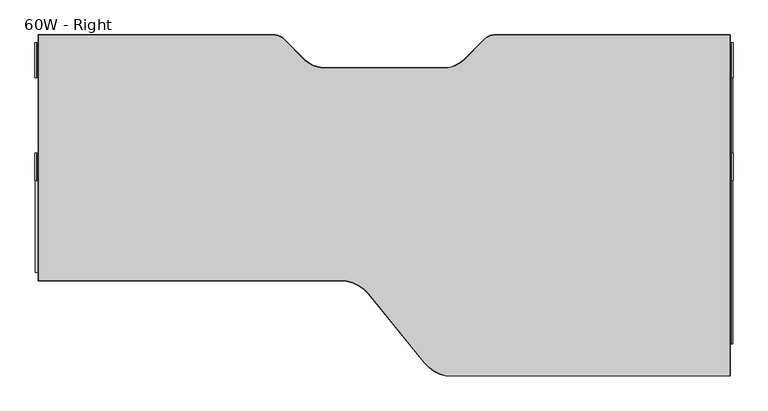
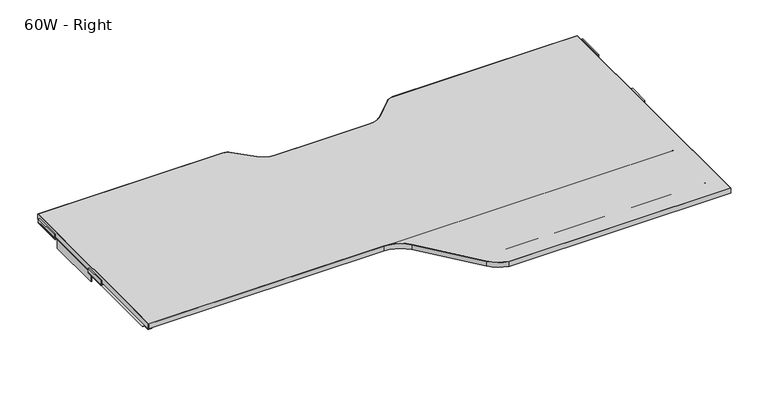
"""IFC4 building model written with IfcOpenShell, lengths in millimetres: furniture geometry, Steelcase Turnstone - Bivi - Table - Dual Top - Lower : 60W - Right."""

from ifc_helpers import new_model, si_unit, point, frame, frame_2d, origin, place, context, project, spatial, polyline, circle_curve, ellipse_curve, trimmed, segment, composite_curve, outline, extrude, source, transform, mapped, element, save
from ifc_brep_helpers import plane_surface, cylinder_surface, revolved_surface, advanced_brep


def furniture_60w_right_423f7bdd(model_context):
    return source(origin(), model_context, "Body", "SolidModel", [
        advanced_brep(
        [(1017.4901364, 89.1376402, 724.5249134), (1622.054541, 89.1373857, 724.5249134), (1622.054541, 814.2061738, 724.5249134), (1118.5570931, 814.2061738, 724.5249134), (1099.5811176, 805.3382607, 724.5249134), (1056.0202275, 761.6868553, 724.5249134), (1017.2770699, 744.2993467, 724.5249134), (886.2032875, 744.2993467, 724.5249134), (755.129423, 744.2993467, 724.5249134), (716.3864317, 761.6868032, 724.5249134), (672.5249468, 805.5482561, 724.5249134), (653.8424613, 814.1239839, 724.5249134), (150.7558466, 814.2061738, 724.5249134), (150.7558466, 292.2477989, 724.5249134), (792.4632404, 292.2477989, 724.5249134), (852.7982248, 263.786479, 724.5249134), (971.5732244, 117.1117408, 724.5249134), (1017.4901364, 89.1376402, 710.5549328), (971.5732244, 117.1117408, 710.5549328), (852.7982248, 263.786479, 710.5549328), (792.4632404, 292.2477989, 710.5549328), (150.7558466, 292.2477989, 710.5549328), (150.7558466, 814.2061738, 710.5549328), (653.8424613, 814.2061738, 710.5549328), (672.5249468, 805.5482561, 710.5549328), (716.3864317, 761.6868032, 710.5549328), (755.129423, 744.2993467, 710.5549328), (886.2032875, 744.2993467, 710.5549328), (1017.2770699, 744.2993467, 710.5549328), (1056.0202275, 761.6868553, 710.5549328), (1099.5811176, 805.3382607, 710.5549328), (1118.5570931, 814.2061738, 710.5549328), (1622.054541, 814.2061738, 710.5549328), (1622.054541, 89.1373857, 710.5549328)],
        [
            (0, 1),
            (1, 2),
            (2, 3),
            (3, 4, circle_curve(frame((1121.2592477, 783.6871801, 724.5249134), z_axis=(0.0, 0.0, 1.0), x_axis=(-0.4063186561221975, 0.913731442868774, 0.0)), 30.6383847)),
            (4, 5),
            (5, 6, circle_curve(frame((1013.7981972, 803.9088855, 724.5249134), z_axis=(0.0, 0.0, -1.0), x_axis=(-0.4063186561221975, 0.913731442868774, 0.0)), 59.7109678)),
            (6, 7),
            (7, 8),
            (8, 9, circle_curve(frame((758.6083688, 803.9087712, 724.5249134), z_axis=(0.0, 0.0, -1.0), x_axis=(-0.4063186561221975, 0.913731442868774, 0.0)), 59.7108579)),
            (9, 10),
            (10, 11, circle_curve(frame((651.8494671, 785.1441379, 724.5249134), z_axis=(0.0, 0.0, 1.0), x_axis=(-0.4063186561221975, 0.913731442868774, 0.0)), 29.048296)),
            (11, 12),
            (12, 13),
            (13, 14),
            (14, 15, circle_curve(frame((793.1218611, 215.4614562, 724.5249134), z_axis=(0.0, 0.0, -1.0), x_axis=(-0.4063186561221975, 0.913731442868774, 0.0)), 76.7891673)),
            (15, 16),
            (16, 0, circle_curve(frame((1033.7062378, 167.4261218, 724.5249134), z_axis=(0.0, 0.0, 1.0), x_axis=(-0.4063186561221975, 0.913731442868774, 0.0)), 79.9502863)),
            (17, 18, circle_curve(frame((1033.7062378, 167.4261218, 710.5549328), z_axis=(0.0, 0.0, -1.0), x_axis=(-0.4063186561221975, 0.913731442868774, 0.0)), 79.9502863)),
            (18, 19),
            (19, 20, circle_curve(frame((793.1218611, 215.4614562, 710.5549328), z_axis=(0.0, 0.0, 1.0), x_axis=(-0.4063186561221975, 0.913731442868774, 0.0)), 76.7891673)),
            (20, 21),
            (21, 22),
            (22, 23),
            (23, 24, circle_curve(frame((651.8494671, 785.1441379, 710.5549328), z_axis=(0.0, 0.0, -1.0), x_axis=(-0.4063186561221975, 0.913731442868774, 0.0)), 29.048296)),
            (24, 25),
            (25, 26, circle_curve(frame((758.6083688, 803.9087712, 710.5549328), z_axis=(0.0, 0.0, 1.0), x_axis=(-0.4063186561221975, 0.913731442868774, 0.0)), 59.7108579)),
            (26, 27),
            (27, 28),
            (28, 29, circle_curve(frame((1013.7981972, 803.9088855, 710.5549328), z_axis=(0.0, 0.0, 1.0), x_axis=(-0.4063186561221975, 0.913731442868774, 0.0)), 59.7109678)),
            (29, 30),
            (30, 31, circle_curve(frame((1121.2592477, 783.6871801, 710.5549328), z_axis=(0.0, 0.0, -1.0), x_axis=(-0.4063186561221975, 0.913731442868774, 0.0)), 30.6383847)),
            (31, 32),
            (32, 33),
            (33, 17),
            (0, 17),
            (33, 1),
            (32, 2),
            (31, 3),
            (30, 4),
            (29, 5),
            (28, 6),
            (27, 7),
            (26, 8),
            (25, 9),
            (24, 10),
            (23, 11),
            (22, 12),
            (21, 13),
            (20, 14),
            (19, 15),
            (18, 16),
        ],
        [
            plane_surface(frame((1622.054541, 89.1373857, 724.5249134), z_axis=(0.0, 0.0, 1.0), x_axis=(0.9999999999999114, -4.210482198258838e-07, 0.0))),
            plane_surface(frame((1622.054541, 89.1373857, 710.5549328), z_axis=(0.0, 0.0, -1.0), x_axis=(-0.9999999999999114, 4.210482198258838e-07, 0.0))),
            plane_surface(frame((1017.4901364, 89.1376402, 724.5249134), z_axis=(-4.210482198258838e-07, -0.9999999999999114, 0.0), x_axis=(0.0, 0.0, -1.0))),
            plane_surface(frame((1622.054541, 89.1373857, 724.5249134), z_axis=(1.0, 0.0, 0.0), x_axis=(0.0, 0.0, -1.0))),
            plane_surface(frame((1622.054541, 814.2061738, 724.5249134), z_axis=(0.0, 1.0, 0.0), x_axis=(0.0, 0.0, -1.0))),
            cylinder_surface(frame((1121.2592477, 783.6871801, 710.5549328), z_axis=(0.0, 0.0, 1.0), x_axis=(-0.4063186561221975, 0.913731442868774, 0.0)), 30.6383847),
            plane_surface(frame((1099.5811176, 805.3382607, 724.5249134), z_axis=(-0.7078402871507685, 0.7063725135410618, 0.0), x_axis=(0.0, 0.0, -1.0))),
            revolved_surface(polyline([(989.5365170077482, 858.4686742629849, 710.5549328), (989.5365170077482, 858.4686742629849, 724.5249134)]), (1013.7981972, 803.9088855, 710.5549328), (0.0, 0.0, -1.0)),
            plane_surface(frame((1017.2770699, 744.2993467, 724.5249134), z_axis=(0.0, 1.0, 0.0), x_axis=(0.0, 0.0, -1.0))),
            plane_surface(frame((886.2032875, 744.2993467, 724.5249134), z_axis=(0.0, 1.0, 0.0), x_axis=(0.0, 0.0, -1.0))),
            revolved_surface(polyline([(734.3467332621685, 858.4684595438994, 710.5549328), (734.3467332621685, 858.4684595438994, 724.5249134)]), (758.6083688, 803.9087712, 710.5549328), (0.0, 0.0, -1.0)),
            plane_surface(frame((716.3864317, 761.6868032, 724.5249134), z_axis=(0.7071065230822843, 0.7071070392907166, 0.0), x_axis=(0.0, 0.0, -1.0))),
            cylinder_surface(frame((651.8494671, 785.1441379, 710.5549328), z_axis=(0.0, 0.0, 1.0), x_axis=(-0.4063186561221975, 0.913731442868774, 0.0)), 29.048296),
            plane_surface(frame((653.8424613, 814.2061738, 724.5249134), z_axis=(0.0, 1.0, 0.0), x_axis=(0.0, 0.0, -1.0))),
            plane_surface(frame((150.7558466, 814.2061738, 724.5249134), z_axis=(-1.0, 0.0, 0.0), x_axis=(0.0, 0.0, -1.0))),
            plane_surface(frame((150.7558466, 292.2477989, 724.5249134), z_axis=(0.0, -1.0, 0.0), x_axis=(0.0, 0.0, -1.0))),
            revolved_surface(polyline([(761.9209898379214, 285.62613283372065, 710.5549328), (761.9209898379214, 285.62613283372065, 724.5249134)]), (793.1218611, 215.4614562, 710.5549328), (0.0, 0.0, -1.0)),
            plane_surface(frame((852.7982248, 263.786479, 724.5249134), z_axis=(-0.7771456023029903, -0.6293208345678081, 0.0), x_axis=(0.0, 0.0, -1.0))),
            cylinder_surface(frame((1033.7062378, 167.4261218, 710.5549328), z_axis=(0.0, 0.0, 1.0), x_axis=(-0.4063186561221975, 0.913731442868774, 0.0)), 79.9502863),
        ],
        [
            (0, [[1, 2, 3, 4, 5, 6, 7, 8, 9, 10, 11, 12, 13, 14, 15, 16, 17]]),
            (1, [[18, 19, 20, 21, 22, 23, 24, 25, 26, 27, 28, 29, 30, 31, 32, 33, 34]]),
            (2, [[-1, 35, -34, 36]]),
            (3, [[-2, -36, -33, 37]]),
            (4, [[-3, -37, -32, 38]]),
            (5, [[-4, -38, -31, 39]]),
            (6, [[-5, -39, -30, 40]]),
            (7, [[-6, -40, -29, 41]]),
            (8, [[-7, -41, -28, 42]]),
            (9, [[-8, -42, -27, 43]]),
            (10, [[-9, -43, -26, 44]]),
            (11, [[-10, -44, -25, 45]]),
            (12, [[-11, -45, -24, 46]]),
            (13, [[-12, -46, -23, 47]]),
            (14, [[-13, -47, -22, 48]]),
            (15, [[-14, -48, -21, 49]]),
            (16, [[-15, -49, -20, 50]]),
            (17, [[-16, -50, -19, 51]]),
            (18, [[-17, -51, -18, -35]]),
        ],
    ),
        extrude(outline(composite_curve([segment(polyline([(149.8432404, 815.2221738), (653.8424613, 815.2221738)]), True, "CONTINUOUS"), segment(trimmed(circle_curve(frame_2d((651.8021969, 785.1871914)), 30.1041999), [point((653.8424613, 815.2221738))], [point((673.1030177, 806.4601292))], False, "CARTESIAN"), True, "CONTINUOUS"), segment(polyline([(673.1030177, 806.4601292), (717.0883671, 762.3879785)]), True, "CONTINUOUS"), segment(trimmed(circle_curve(frame_2d((758.5921228, 803.8917343)), 58.6951743), [point((717.0883671, 762.3879785))], [point((754.8597903, 745.3153467))], True, "CARTESIAN"), True, "CONTINUOUS"), segment(polyline([(754.8597903, 745.3153467), (886.2032875, 745.3153467), (1017.2473205, 745.3153467)]), True, "CONTINUOUS"), segment(trimmed(circle_curve(frame_2d((1013.7981972, 803.9088855)), 58.6949678), [point((1017.2473205, 745.3153467))], [point((1055.301807, 762.4052758))], True, "CARTESIAN"), True, "CONTINUOUS"), segment(polyline([(1055.301807, 762.4052758), (1098.8724869, 806.0444494)]), True, "CONTINUOUS"), segment(trimmed(circle_curve(frame_2d((1121.2631908, 783.6783822)), 31.6478212), [point((1098.8724869, 806.0444494))], [point((1118.6992501, 815.2221738))], False, "CARTESIAN"), True, "CONTINUOUS"), segment(polyline([(1118.6992501, 815.2221738), (1623.0432404, 815.2221738), (1623.0432404, 88.1471738), (1017.4913654, 88.1471738)]), True, "CONTINUOUS"), segment(trimmed(circle_curve(frame_2d((1033.4468929, 167.0577426)), 80.5074948), [point((1017.4913654, 88.1471738))], [point((970.8808515, 116.3926937))], False, "CARTESIAN"), True, "CONTINUOUS"), segment(polyline([(970.8808515, 116.3926937), (852.0785981, 263.1010628)]), True, "CONTINUOUS"), segment(trimmed(circle_curve(frame_2d((792.4555619, 214.0707453)), 77.1937723), [point((852.0785981, 263.1010628))], [point((792.4555619, 291.2645176))], True, "CARTESIAN"), True, "CONTINUOUS"), segment(polyline([(792.4555619, 291.2645176), (149.8432404, 291.2645176), (149.8432404, 815.2221738)]), True, "CONTINUOUS")], self_intersect=False), holes=[composite_curve([segment(polyline([(1622.054541, 814.2061738), (1118.5570931, 814.2061738)]), True, "CONTINUOUS"), segment(trimmed(circle_curve(frame_2d((1121.2592477, 783.6871801)), 30.6383847), [point((1118.5570931, 814.2061738))], [point((1099.5811176, 805.3382607))], True, "CARTESIAN"), True, "CONTINUOUS"), segment(polyline([(1099.5811176, 805.3382607), (1056.0202275, 761.6868553)]), True, "CONTINUOUS"), segment(trimmed(circle_curve(frame_2d((1013.7981972, 803.9088855)), 59.7109678), [point((1056.0202275, 761.6868553))], [point((1017.2770699, 744.2993467))], False, "CARTESIAN"), True, "CONTINUOUS"), segment(polyline([(1017.2770699, 744.2993467), (886.2032875, 744.2993467), (755.129423, 744.2993467)]), True, "CONTINUOUS"), segment(trimmed(circle_curve(frame_2d((758.6083688, 803.9087712)), 59.7108579), [point((755.129423, 744.2993467))], [point((716.3865606, 761.6866743))], False, "CARTESIAN"), True, "CONTINUOUS"), segment(polyline([(716.3865606, 761.6866743), (672.5545422, 805.605253)]), True, "CONTINUOUS"), segment(trimmed(circle_curve(frame_2d((651.8367587, 785.1872141)), 29.0881912), [point((672.5545422, 805.605253))], [point((653.8424613, 814.2061738))], True, "CARTESIAN"), True, "CONTINUOUS"), segment(polyline([(653.8424613, 814.2061738), (150.7558466, 814.2061738), (150.7558466, 292.2477989), (792.4632404, 292.2477989)]), True, "CONTINUOUS"), segment(trimmed(circle_curve(frame_2d((793.1218611, 215.4614562)), 76.7891673), [point((792.4632404, 292.2477989))], [point((852.7982248, 263.786479))], False, "CARTESIAN"), True, "CONTINUOUS"), segment(polyline([(852.7982248, 263.786479), (971.5732244, 117.1117408)]), True, "CONTINUOUS"), segment(trimmed(circle_curve(frame_2d((1033.7062378, 167.4261218)), 79.9502863), [point((971.5732244, 117.1117408))], [point((1017.4901364, 89.1376402))], True, "CARTESIAN"), True, "CONTINUOUS"), segment(polyline([(1017.4901364, 89.1376402), (1622.054541, 89.1373857), (1622.054541, 814.2061738)]), True, "CONTINUOUS")], self_intersect=False)]), frame((0.0, 0.0, 710.5550297), z_axis=(0.0, 0.0, 1.0), x_axis=(1.0, 0.0, 0.0)), (0.0, 0.0, 1.0), 13.9698837),
        advanced_brep(
        [(145.5818241, 504.690356, 711.9212369), (145.5818241, 563.7453741, 711.9212369), (145.5818241, 563.7451183, 723.0029133), (145.5818241, 504.690356, 723.0029133), (145.5818241, 724.4001739, 711.9212369), (145.5818241, 798.4679915, 711.9212369), (145.5818241, 798.4679915, 723.0029133), (145.5818241, 724.4001739, 723.0029133), (142.5439281, 563.7451183, 723.0029133), (142.5439281, 504.690356, 723.0029133), (142.5439281, 798.4679915, 723.0029133), (142.5439281, 724.4001739, 723.0029133), (142.5439281, 563.7453741, 711.9212369), (142.5439281, 504.690356, 711.9212369), (142.5439281, 798.4679915, 711.9212369), (142.5439281, 724.4001739, 711.9212369), (147.4373911, 563.7454806, 707.3122286), (147.4373911, 309.2290349, 707.3122286), (143.7646064, 309.2290349, 708.9675297), (143.7646064, 504.690356, 708.9675297), (145.2762535, 798.4679915, 707.8143047), (147.4373911, 798.3703978, 707.3122286), (147.4373911, 724.4001739, 707.3122286), (168.8139092, 563.7454805, 707.3122286), (168.8139092, 309.2290349, 707.3122286), (168.8139092, 798.3703978, 707.3122286), (168.8139092, 724.4001739, 707.3122286), (170.6778738, 563.745518, 705.6867706), (170.6778738, 724.4001739, 705.6867706), (170.6953721, 798.0046785, 705.4307657), (170.6953721, 309.2290349, 705.4307657), (170.6953721, 792.7742761, 678.5226778), (170.6953721, 329.5446913, 678.5226778), (170.6953721, 309.2290349, 696.2929994), (175.2571761, 791.9465678, 674.264488), (175.2571761, 334.4128036, 674.264488), (183.3953277, 791.9465678, 674.264488), (183.3953277, 334.4128036, 674.264488), (183.3953277, 792.5536406, 677.3876068), (183.3953277, 330.8423444, 677.3876068), (174.3746318, 792.5536406, 677.3876068), (174.3746318, 330.8423444, 677.3876068), (174.3746318, 797.8637582, 704.7057937), (174.3746318, 309.2290349, 704.7057937), (174.3746318, 309.2290349, 696.2929994), (173.4415105, 798.4679915, 707.8143047), (168.7303737, 798.4679915, 710.3500519), (168.7303737, 724.4001739, 710.3500519), (174.2887309, 724.4001739, 705.6867706), (174.2887309, 563.745518, 705.6867706), (168.7303737, 563.7454105, 710.3500519), (168.7303737, 504.690356, 710.3500519), (172.431084, 504.690356, 708.9675297), (172.431084, 309.2290349, 708.9675297), (147.4373911, 798.4679915, 710.3500519), (147.4373911, 724.4001739, 710.3500519), (147.4373911, 563.7454104, 710.3500519), (147.4373911, 504.690356, 710.3500519)],
        [
            (0, 1),
            (1, 2),
            (2, 3),
            (3, 0),
            (4, 5),
            (5, 6),
            (6, 7),
            (7, 4),
            (2, 8),
            (8, 9),
            (9, 3),
            (6, 10),
            (10, 11),
            (11, 7),
            (8, 12),
            (12, 13),
            (13, 9),
            (10, 14),
            (14, 15),
            (15, 11),
            (12, 16, ellipse_curve(frame((147.4373911, 563.7453673, 712.2144694), z_axis=(0.0, -0.999999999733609, -2.3082072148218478e-05), x_axis=(0.0, -2.308207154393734e-05, 0.999999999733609)), 4.9022408, 4.9022408)),
            (16, 17),
            (17, 18, circle_curve(frame((147.4373911, 309.2290349, 712.2144694), z_axis=(0.0, 1.0, 0.0), x_axis=(0.0, 0.0, 1.0)), 4.9022408)),
            (18, 19),
            (19, 13, circle_curve(frame((147.4373911, 504.690356, 712.2144694), z_axis=(0.0, 1.0, 0.0), x_axis=(0.0, 0.0, 1.0)), 4.9022408)),
            (14, 20, circle_curve(frame((147.4373911, 798.4679915, 712.2144694), z_axis=(0.0, -1.0, 0.0), x_axis=(0.0, 0.0, 1.0)), 4.9022408)),
            (20, 21, ellipse_curve(frame((147.4373911, 799.3232969, 712.2144694), z_axis=(0.0, -0.9816271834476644, 0.1908089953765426), x_axis=(0.0, -0.1908089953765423, -0.9816271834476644)), 4.9939945, 4.9022408)),
            (21, 22),
            (22, 15, circle_curve(frame((147.4373911, 724.4001739, 712.2144694), z_axis=(0.0, 1.0, 0.0), x_axis=(0.0, 0.0, 1.0)), 4.9022408)),
            (16, 23),
            (23, 24),
            (24, 17),
            (21, 25),
            (25, 26),
            (26, 22),
            (23, 27, ellipse_curve(frame((168.8139092, 563.7455239, 705.4307657), z_axis=(0.0, 0.999999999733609, 2.3082072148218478e-05), x_axis=(0.0, 2.308207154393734e-05, -0.999999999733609)), 1.8814629, 1.8814629)),
            (27, 28),
            (28, 26, circle_curve(frame((168.8139092, 724.4001739, 705.4307657), z_axis=(0.0, -1.0, 0.0), x_axis=(0.0, 0.0, 1.0)), 1.8814629)),
            (25, 29, ellipse_curve(frame((168.8139092, 798.0046785, 705.4307657), z_axis=(0.0, 0.9816271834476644, -0.1908089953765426), x_axis=(0.0, 0.1908089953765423, 0.9816271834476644)), 1.9166776, 1.8814629)),
            (29, 30),
            (30, 24, circle_curve(frame((168.8139092, 309.2290349, 705.4307657), z_axis=(0.0, -1.0, 0.0), x_axis=(0.0, 0.0, 1.0)), 1.8814629)),
            (29, 31),
            (31, 32),
            (32, 33),
            (33, 30),
            (31, 34, ellipse_curve(frame((175.2571761, 792.8353967, 678.8371161), z_axis=(0.0, -0.9816271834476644, 0.1908089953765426), x_axis=(0.0, -0.1908089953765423, -0.9816271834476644)), 4.6582125, 4.572628)),
            (34, 35),
            (35, 32, ellipse_curve(frame((175.2571761, 329.1852144, 678.8371161), z_axis=(0.0, 0.6583812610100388, 0.7526846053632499), x_axis=(0.0, -0.7526846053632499, 0.6583812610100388)), 6.9452585, 4.572628)),
            (34, 36),
            (36, 37),
            (37, 35),
            (36, 38),
            (38, 39),
            (39, 37),
            (38, 40),
            (40, 41),
            (41, 39),
            (40, 42),
            (42, 43),
            (43, 44),
            (44, 41),
            (42, 45, ellipse_curve(frame((168.7303737, 797.8637582, 704.7057937), z_axis=(0.0, -0.9816271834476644, 0.1908089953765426), x_axis=(0.0, -0.1908089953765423, -0.9816271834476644)), 5.7499, 5.6442581)),
            (45, 46, circle_curve(frame((168.7303737, 798.4679915, 704.7057937), z_axis=(0.0, -1.0, 0.0), x_axis=(0.0, 0.0, 1.0)), 5.6442581)),
            (46, 47),
            (47, 48, circle_curve(frame((168.7303737, 724.4001739, 704.7057937), z_axis=(0.0, 1.0, 0.0), x_axis=(0.0, 0.0, 1.0)), 5.6442581)),
            (48, 49),
            (49, 50, ellipse_curve(frame((168.7303737, 563.7455407, 704.7057937), z_axis=(0.0, -0.999999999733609, -2.3082072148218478e-05), x_axis=(0.0, -2.308207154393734e-05, 0.999999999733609)), 5.6442581, 5.6442581)),
            (50, 51),
            (51, 52, circle_curve(frame((168.7303737, 504.690356, 704.7057937), z_axis=(0.0, 1.0, 0.0), x_axis=(0.0, 0.0, 1.0)), 5.6442581)),
            (52, 53),
            (53, 43, circle_curve(frame((168.7303737, 309.2290349, 704.7057937), z_axis=(0.0, 1.0, 0.0), x_axis=(0.0, 0.0, 1.0)), 5.6442581)),
            (46, 54),
            (54, 55),
            (55, 47),
            (50, 56),
            (56, 57),
            (57, 51),
            (0, 57, circle_curve(frame((147.1748011, 504.690356, 711.9212369), z_axis=(0.0, -1.0, 0.0), x_axis=(0.0, 0.0, 1.0)), 1.592977)),
            (56, 1, ellipse_curve(frame((147.1748011, 563.7453741, 711.9212369), z_axis=(0.0, 0.999999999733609, 2.3082072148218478e-05), x_axis=(0.0, 2.308207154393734e-05, -0.999999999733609)), 1.592977, 1.592977)),
            (4, 55, circle_curve(frame((147.1748011, 724.4001739, 711.9212369), z_axis=(0.0, -1.0, 0.0), x_axis=(0.0, 0.0, 1.0)), 1.592977)),
            (54, 5, circle_curve(frame((147.1748011, 798.4679915, 711.9212369), z_axis=(0.0, 1.0, 0.0), x_axis=(0.0, 0.0, 1.0)), 1.592977)),
            (19, 52),
            (18, 53),
            (33, 44),
            (45, 20),
            (49, 27),
            (28, 48),
        ],
        [
            plane_surface(frame((145.5818241, 288.2588059, 711.9212369), z_axis=(1.0, 0.0, 0.0), x_axis=(0.0, 1.0, 0.0))),
            plane_surface(frame((145.5818241, 288.2588059, 723.0029133), z_axis=(0.0, 0.0, 1.0), x_axis=(0.0, 1.0, 0.0))),
            plane_surface(frame((142.5439281, 288.2588059, 723.0029133), z_axis=(-1.0, 0.0, 0.0), x_axis=(0.0, 1.0, 0.0))),
            cylinder_surface(frame((147.4373911, 802.6708653, 712.2144694), z_axis=(0.0, -1.0, 0.0), x_axis=(0.0, 0.0, 1.0)), 4.9022408),
            plane_surface(frame((147.4373911, 288.2588059, 707.3122286), z_axis=(0.0, 0.0, -1.0), x_axis=(0.0, 1.0, 0.0))),
            revolved_surface(polyline([(168.8139092, 798.3703978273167, 707.3122286), (168.8139092, 309.2290349, 707.3122286)]), (168.8139092, 802.6708653, 705.4307657), (0.0, 1.0, 0.0)),
            plane_surface(frame((170.6953721, 288.2588059, 705.4307657), z_axis=(-1.0, 0.0, 0.0), x_axis=(0.0, 1.0, 0.0))),
            cylinder_surface(frame((175.2571761, 802.6708653, 678.8371161), z_axis=(0.0, -1.0, 0.0), x_axis=(0.0, 0.0, 1.0)), 4.572628),
            plane_surface(frame((175.2571761, 288.2588059, 674.264488), z_axis=(0.0, 0.0, -1.0), x_axis=(0.0, 1.0, 0.0))),
            plane_surface(frame((183.3953277, 288.2588059, 674.264488), z_axis=(1.0, 0.0, 0.0), x_axis=(0.0, 1.0, 0.0))),
            plane_surface(frame((183.3953277, 288.2588059, 677.3876068), z_axis=(0.0, 0.0, 1.0), x_axis=(0.0, 1.0, 0.0))),
            plane_surface(frame((174.3746318, 288.2588059, 677.3876068), z_axis=(1.0, 0.0, 0.0), x_axis=(0.0, 1.0, 0.0))),
            cylinder_surface(frame((168.7303737, 802.6708653, 704.7057937), z_axis=(0.0, -1.0, 0.0), x_axis=(0.0, 0.0, 1.0)), 5.6442581),
            plane_surface(frame((168.7303737, 288.2588059, 710.3500519), z_axis=(0.0, 0.0, 1.0), x_axis=(0.0, 1.0, 0.0))),
            revolved_surface(polyline([(147.1748011, 563.7454108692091, 713.5142139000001), (147.1748011, 504.690356, 713.5142139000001)]), (147.1748011, 802.6708653, 711.9212369), (0.0, 1.0, 0.0)),
            revolved_surface(polyline([(147.1748011, 798.4679915, 713.5142139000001), (147.1748011, 724.4001739, 713.5142139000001)]), (147.1748011, 802.6708653, 711.9212369), (0.0, 1.0, 0.0)),
            plane_surface(frame((328.4213748, 504.690356, 708.9675297), z_axis=(0.0, -1.0, 0.0), x_axis=(-1.0, 0.0, 0.0))),
            plane_surface(frame((328.4213748, 309.2290349, 708.9675297), z_axis=(0.0, 0.0, 1.0), x_axis=(-1.0, 0.0, 0.0))),
            plane_surface(frame((328.4213748, 309.2290349, 696.2929994), z_axis=(0.0, -1.0, 0.0), x_axis=(-1.0, 0.0, 0.0))),
            plane_surface(frame((328.4213748, 798.4679915, 772.8340566), z_axis=(0.0, 1.0, 0.0), x_axis=(-1.0, 0.0, 0.0))),
            plane_surface(frame((328.4213748, 798.4679915, 707.8143047), z_axis=(0.0, 0.9816271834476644, -0.1908089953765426), x_axis=(-1.0, 0.0, 0.0))),
            plane_surface(frame((328.4213748, 563.7433492, 799.647778), z_axis=(0.0, 0.999999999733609, 2.3082072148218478e-05), x_axis=(-1.0, 0.0, 0.0))),
            plane_surface(frame((328.4213748, 724.4001739, 705.6867706), z_axis=(0.0, -1.0, 0.0), x_axis=(-1.0, 0.0, 0.0))),
            plane_surface(frame((328.4213748, 563.745518, 705.6867706), z_axis=(0.0, 0.0, 1.0), x_axis=(-1.0, 0.0, 0.0))),
            plane_surface(frame((328.4213748, 340.1846555, 669.2157875), z_axis=(0.0, -0.6583812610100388, -0.7526846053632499), x_axis=(-1.0, 0.0, 0.0))),
        ],
        [
            (0, [[1, 2, 3, 4]]),
            (0, [[5, 6, 7, 8]]),
            (1, [[-3, 9, 10, 11]]),
            (1, [[-7, 12, 13, 14]]),
            (2, [[-10, 15, 16, 17]]),
            (2, [[-13, 18, 19, 20]]),
            (3, [[-16, 21, 22, 23, 24, 25]]),
            (3, [[-19, 26, 27, 28, 29]]),
            (4, [[-22, 30, 31, 32]]),
            (4, [[-28, 33, 34, 35]]),
            (5, [[-31, 36, 37, 38, -34, 39, 40, 41]]),
            (6, [[-40, 42, 43, 44, 45]]),
            (7, [[-43, 46, 47, 48]]),
            (8, [[-47, 49, 50, 51]]),
            (9, [[-50, 52, 53, 54]]),
            (10, [[-53, 55, 56, 57]]),
            (11, [[-56, 58, 59, 60, 61]]),
            (12, [[-59, 62, 63, 64, 65, 66, 67, 68, 69, 70, 71]]),
            (13, [[-64, 72, 73, 74]]),
            (13, [[-68, 75, 76, 77]]),
            (14, [[-1, 78, -76, 79]]),
            (15, [[-5, 80, -73, 81]]),
            (16, [[82, -69, -77, -78, -4, -11, -17, -25]]),
            (17, [[-82, -24, 83, -70]]),
            (18, [[-83, -23, -32, -41, -45, 84, -60, -71]]),
            (19, [[85, -26, -18, -12, -6, -81, -72, -63]]),
            (20, [[-85, -62, -58, -55, -52, -49, -46, -42, -39, -33, -27]]),
            (21, [[86, -36, -30, -21, -15, -9, -2, -79, -75, -67]]),
            (22, [[87, -65, -74, -80, -8, -14, -20, -29, -35, -38]]),
            (23, [[-87, -37, -86, -66]]),
            (24, [[-84, -44, -48, -51, -54, -57, -61]]),
        ],
    ),
        extrude(outline(composite_curve([segment(polyline([(679.9693744, 1619.868518), (679.9693744, 1622.6213218), (705.5540224, 1622.6213218)]), True, "CONTINUOUS"), segment(trimmed(circle_curve(frame_2d((705.5540224, 1617.7260736)), 4.8952482), [point((705.5540224, 1622.6213218))], [point((710.4492706, 1617.7260736))], False, "CARTESIAN"), True, "CONTINUOUS"), segment(polyline([(710.4492706, 1617.7260736), (710.4492706, 1602.5376011)]), True, "CONTINUOUS"), segment(trimmed(circle_curve(frame_2d((704.8050125, 1602.5376011)), 5.6442581), [point((710.4492706, 1602.5376011))], [point((704.6171643, 1596.8964698))], False, "CARTESIAN"), True, "CONTINUOUS"), segment(polyline([(704.6171643, 1596.8964698), (704.6171643, 1600.5726027), (705.5299845, 1600.5726027)]), True, "CONTINUOUS"), segment(trimmed(circle_curve(frame_2d((705.5299845, 1602.4540656)), 1.8814629), [point((705.5299845, 1600.5726027))], [point((707.4114473, 1602.4540656))], True, "CARTESIAN"), True, "CONTINUOUS"), segment(polyline([(707.4114473, 1602.4540656), (707.4114473, 1618.1512583)]), True, "CONTINUOUS"), segment(trimmed(circle_curve(frame_2d((705.6941877, 1618.1512583)), 1.7172597), [point((707.4114473, 1618.1512583))], [point((705.6941877, 1619.868518))], True, "CARTESIAN"), True, "CONTINUOUS"), segment(polyline([(705.6941877, 1619.868518), (679.9693744, 1619.868518)]), True, "CONTINUOUS")], self_intersect=False)), frame((0.0, 566.2783726, 0.0), z_axis=(0.0, 1.0, 0.0), x_axis=(0.0, 0.0, 1.0)), (0.0, 0.0, 1.0), 155.5875545),
        advanced_brep(
        [(1593.6394249, 141.2161729, 708.6898523), (1593.6394249, 154.6431884, 708.6898523), (1593.6394249, 157.2460448, 706.0869959), (1593.6394249, 157.2460448, 702.0104193), (1593.6394249, 159.5028628, 697.5811645), (1593.6394249, 166.4345251, 692.545017), (1593.6394249, 172.0052613, 690.4622041), (1593.6394249, 336.1989805, 676.0971151), (1593.6394249, 294.63737, 710.5550297), (1593.6394249, 141.2161729, 710.5550297), (1059.4106484, 141.2161729, 708.6898523), (1050.0017507, 154.6431884, 708.6898523), (1048.1778153, 157.2460448, 706.0869959), (1048.1778153, 157.2460448, 702.0104193), (1046.5963641, 159.5028628, 697.5811645), (1041.7390447, 166.4345251, 692.545017), (1037.8353859, 172.0052613, 690.4622041), (922.7776568, 336.1989805, 676.0971151), (951.9016973, 294.63737, 710.5550297), (1059.4106484, 141.2161729, 710.5550297)],
        [
            (0, 1),
            (1, 2, circle_curve(frame((1593.6394249, 154.6431884, 706.0869959), z_axis=(-1.0, 0.0, 0.0), x_axis=(0.0, 1.0, 0.0)), 2.6028564)),
            (2, 3),
            (3, 4, circle_curve(frame((1593.6394249, 162.7209047, 702.0104193), z_axis=(1.0, 0.0, 0.0), x_axis=(0.0, 1.0, 0.0)), 5.47486)),
            (4, 5),
            (5, 6, circle_curve(frame((1593.6394249, 172.9750836, 701.5473235), z_axis=(1.0, 0.0, 0.0), x_axis=(0.0, 1.0, 0.0)), 11.1274627)),
            (6, 7),
            (7, 8),
            (8, 9),
            (9, 0),
            (0, 10),
            (10, 11),
            (11, 1),
            (11, 12, ellipse_curve(frame((1050.0017507, 154.6431884, 706.0869959), z_axis=(-0.8189456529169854, -0.573871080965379, 0.0), x_axis=(0.573871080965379, -0.8189456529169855, 0.0)), 3.1783017, 2.6028564)),
            (12, 2),
            (12, 13),
            (13, 3),
            (13, 14, ellipse_curve(frame((1044.3413412, 162.7209047, 702.0104193), z_axis=(0.8189456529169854, 0.573871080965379, 0.0), x_axis=(-0.573871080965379, 0.8189456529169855, 0.0)), 6.6852543, 5.47486)),
            (14, 4),
            (14, 15),
            (15, 5),
            (15, 16, ellipse_curve(frame((1037.155789, 172.9750836, 701.5473235), z_axis=(0.8189456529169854, 0.573871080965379, 0.0), x_axis=(-0.573871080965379, 0.8189456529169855, 0.0)), 13.5875472, 11.1274627)),
            (16, 6),
            (16, 17),
            (17, 7),
            (17, 18),
            (18, 8),
            (18, 19),
            (19, 9),
            (19, 10),
        ],
        [
            plane_surface(frame((1593.6394249, 141.2161729, 710.5550297), z_axis=(1.0, 0.0, 0.0), x_axis=(0.0, 0.0, -1.0))),
            plane_surface(frame((886.4432404, 154.6431884, 708.6898523), z_axis=(0.0, 0.0, -1.0), x_axis=(1.0, 0.0, 0.0))),
            revolved_surface(polyline([(1593.6394249, 157.24604480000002, 706.0869959), (1048.1778152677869, 157.24604480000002, 706.0869959)]), (1593.6394249, 154.6431884, 706.0869959), (1.0, 0.0, 0.0)),
            plane_surface(frame((886.4432404, 157.2460448, 702.0104193), z_axis=(0.0, -1.0, 0.0), x_axis=(1.0, 0.0, 0.0))),
            cylinder_surface(frame((1593.6394249, 162.7209047, 702.0104193), z_axis=(-1.0, 0.0, 0.0), x_axis=(0.0, 1.0, 0.0)), 5.47486),
            plane_surface(frame((886.4432404, 166.4345251, 692.545017), z_axis=(0.0, -0.5877852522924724, -0.8090169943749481), x_axis=(1.0, 0.0, 0.0))),
            cylinder_surface(frame((1593.6394249, 172.9750836, 701.5473235), z_axis=(-1.0, 0.0, 0.0), x_axis=(0.0, 1.0, 0.0)), 11.1274627),
            plane_surface(frame((886.4432404, 336.1989805, 676.0971151), z_axis=(0.0, -0.08715574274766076, -0.9961946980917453), x_axis=(1.0, 0.0, 0.0))),
            plane_surface(frame((886.4432404, 294.63737, 710.5550297), z_axis=(0.0, 0.6382501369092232, 0.7698290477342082), x_axis=(1.0, 0.0, 0.0))),
            plane_surface(frame((886.4432404, 141.2161729, 710.5550297), z_axis=(0.0, 0.0, 1.0), x_axis=(1.0, 0.0, 0.0))),
            plane_surface(frame((886.4432404, 141.2161729, 708.6898523), z_axis=(0.0, -1.0, 0.0), x_axis=(1.0, 0.0, 0.0))),
            plane_surface(frame((1095.90438, 89.1376072, 852.557595), z_axis=(-0.8189456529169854, -0.573871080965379, 0.0), x_axis=(0.0, 0.0, -1.0))),
        ],
        [
            (0, [[1, 2, 3, 4, 5, 6, 7, 8, 9, 10]]),
            (1, [[-1, 11, 12, 13]]),
            (2, [[-2, -13, 14, 15]]),
            (3, [[-3, -15, 16, 17]]),
            (4, [[-4, -17, 18, 19]]),
            (5, [[-5, -19, 20, 21]]),
            (6, [[-6, -21, 22, 23]]),
            (7, [[-7, -23, 24, 25]]),
            (8, [[-8, -25, 26, 27]]),
            (9, [[-9, -27, 28, 29]]),
            (10, [[-10, -29, 30, -11]]),
            (11, [[-12, -30, -28, -26, -24, -22, -20, -18, -16, -14]]),
        ],
    ),
        advanced_brep(
        [(180.0098, 458.4797048, 708.9675297), (180.0098, 440.8929112, 708.9675297), (180.0098, 439.5554602, 707.6300787), (180.0098, 439.5554602, 680.2130169), (180.0098, 437.0192661, 677.6768228), (180.0098, 341.4893915, 677.6768228), (180.0098, 338.8017218, 678.5500996), (180.0098, 310.6278496, 699.0196159), (180.0098, 309.5087137, 701.216044), (180.0098, 309.5087137, 708.2086478), (180.0098, 308.6713778, 709.0459836), (180.0098, 298.2366086, 709.0459836), (180.0098, 298.2366086, 710.5550297), (180.0098, 458.4797048, 710.5550297), (1593.6394249, 458.4797048, 708.9675297), (1593.6394249, 458.4797048, 710.5550297), (1593.6394249, 298.2366086, 710.5550297), (1593.6394249, 298.2366086, 709.0459836), (1593.6394249, 308.6713778, 709.0459836), (1593.6394249, 309.5087137, 708.2086478), (1593.6394249, 309.5087137, 701.216044), (1593.6394249, 310.6278496, 699.0196159), (1593.6394249, 338.8017218, 678.5500996), (1593.6394249, 341.4893915, 677.6768228), (1593.6394249, 437.0192661, 677.6768228), (1593.6394249, 439.5554602, 680.2130169), (1593.6394249, 439.5554602, 707.6300787), (1593.6394249, 440.8929112, 708.9675297), (1509.8941045, 458.4797048, 710.5550297), (1509.8941045, 298.2366086, 710.5550297)],
        [
            (0, 1),
            (1, 2, circle_curve(frame((180.0098, 440.8929112, 707.6300787), z_axis=(1.0, 0.0, 0.0), x_axis=(0.0, 1.0, 0.0)), 1.337451)),
            (2, 3),
            (3, 4, circle_curve(frame((180.0098, 437.0192661, 680.2130169), z_axis=(-1.0, 0.0, 0.0), x_axis=(0.0, 1.0, 0.0)), 2.5361941)),
            (4, 5),
            (5, 6, circle_curve(frame((180.0098, 341.4893915, 682.2493595), z_axis=(-1.0, 0.0, 0.0), x_axis=(0.0, 1.0, 0.0)), 4.5725367)),
            (6, 7),
            (7, 8, circle_curve(frame((180.0098, 312.223648, 701.216044), z_axis=(-1.0, 0.0, 0.0), x_axis=(0.0, 1.0, 0.0)), 2.7149344)),
            (8, 9),
            (9, 10, circle_curve(frame((180.0098, 308.6713778, 708.2086478), z_axis=(1.0, 0.0, 0.0), x_axis=(0.0, 1.0, 0.0)), 0.8373358)),
            (10, 11),
            (11, 12),
            (12, 13),
            (13, 0),
            (14, 15),
            (15, 16),
            (16, 17),
            (17, 18),
            (18, 19, circle_curve(frame((1593.6394249, 308.6713778, 708.2086478), z_axis=(-1.0, 0.0, 0.0), x_axis=(0.0, 1.0, 0.0)), 0.8373358)),
            (19, 20),
            (20, 21, circle_curve(frame((1593.6394249, 312.223648, 701.216044), z_axis=(1.0, 0.0, 0.0), x_axis=(0.0, 1.0, 0.0)), 2.7149344)),
            (21, 22),
            (22, 23, circle_curve(frame((1593.6394249, 341.4893915, 682.2493595), z_axis=(1.0, 0.0, 0.0), x_axis=(0.0, 1.0, 0.0)), 4.5725367)),
            (23, 24),
            (24, 25, circle_curve(frame((1593.6394249, 437.0192661, 680.2130169), z_axis=(1.0, 0.0, 0.0), x_axis=(0.0, 1.0, 0.0)), 2.5361941)),
            (25, 26),
            (26, 27, circle_curve(frame((1593.6394249, 440.8929112, 707.6300787), z_axis=(-1.0, 0.0, 0.0), x_axis=(0.0, 1.0, 0.0)), 1.337451)),
            (27, 14),
            (13, 28),
            (28, 15),
            (14, 0),
            (12, 29),
            (29, 16),
            (11, 17),
            (10, 18),
            (9, 19),
            (8, 20),
            (7, 21),
            (6, 22),
            (5, 23),
            (4, 24),
            (3, 25),
            (2, 26),
            (1, 27),
        ],
        [
            plane_surface(frame((180.0098, 458.4797048, 708.9675297), z_axis=(-1.0, 0.0, 0.0), x_axis=(0.0, -1.0, 0.0))),
            plane_surface(frame((1593.6394249, 458.4797048, 708.9675297), z_axis=(1.0, 0.0, 0.0), x_axis=(0.0, 1.0, 0.0))),
            plane_surface(frame((180.0098, 458.4797048, 710.5550297), z_axis=(0.0, 1.0, 0.0), x_axis=(1.0, 0.0, 0.0))),
            plane_surface(frame((180.0098, 298.2366086, 710.5550297), z_axis=(0.0, 0.0, 1.0), x_axis=(1.0, 0.0, 0.0))),
            plane_surface(frame((180.0098, 298.2366086, 709.0459836), z_axis=(0.0, -1.0, 0.0), x_axis=(1.0, 0.0, 0.0))),
            plane_surface(frame((180.0098, 308.6713778, 709.0459836), z_axis=(0.0, 0.0, -1.0), x_axis=(1.0, 0.0, 0.0))),
            revolved_surface(polyline([(1593.6394249, 309.5087136, 708.2086478), (180.00980000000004, 309.5087136, 708.2086478)]), (1593.6394249, 308.6713778, 708.2086478), (1.0, 0.0, 0.0)),
            plane_surface(frame((180.0098, 309.5087137, 701.216044), z_axis=(0.0, -1.0, 0.0), x_axis=(1.0, 0.0, 0.0))),
            cylinder_surface(frame((1593.6394249, 312.223648, 701.216044), z_axis=(-1.0, 0.0, 0.0), x_axis=(0.0, 1.0, 0.0)), 2.7149344),
            plane_surface(frame((180.0098, 338.8017218, 678.5500996), z_axis=(0.0, -0.5877852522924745, -0.8090169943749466), x_axis=(1.0, 0.0, 0.0))),
            cylinder_surface(frame((1593.6394249, 341.4893915, 682.2493595), z_axis=(-1.0, 0.0, 0.0), x_axis=(0.0, 1.0, 0.0)), 4.5725367),
            plane_surface(frame((180.0098, 437.0192661, 677.6768228), z_axis=(0.0, 0.0, -1.0), x_axis=(1.0, 0.0, 0.0))),
            cylinder_surface(frame((1593.6394249, 437.0192661, 680.2130169), z_axis=(-1.0, 0.0, 0.0), x_axis=(0.0, 1.0, 0.0)), 2.5361941),
            plane_surface(frame((180.0098, 439.5554602, 707.6300787), z_axis=(0.0, 1.0, 0.0), x_axis=(1.0, 0.0, 0.0))),
            revolved_surface(polyline([(1593.6394249, 442.2303622, 707.6300787), (180.00980000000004, 442.2303622, 707.6300787)]), (1593.6394249, 440.8929112, 707.6300787), (1.0, 0.0, 0.0)),
            plane_surface(frame((180.0098, 458.4797048, 708.9675297), z_axis=(0.0, 0.0, -1.0), x_axis=(1.0, 0.0, 0.0))),
        ],
        [
            (0, [[1, 2, 3, 4, 5, 6, 7, 8, 9, 10, 11, 12, 13, 14]]),
            (1, [[15, 16, 17, 18, 19, 20, 21, 22, 23, 24, 25, 26, 27, 28]]),
            (2, [[-14, 29, 30, -15, 31]]),
            (3, [[-13, 32, 33, -16, -30, -29]]),
            (4, [[-12, 34, -17, -33, -32]]),
            (5, [[-11, 35, -18, -34]]),
            (6, [[-10, 36, -19, -35]]),
            (7, [[-9, 37, -20, -36]]),
            (8, [[-8, 38, -21, -37]]),
            (9, [[-7, 39, -22, -38]]),
            (10, [[-6, 40, -23, -39]]),
            (11, [[-5, 41, -24, -40]]),
            (12, [[-4, 42, -25, -41]]),
            (13, [[-3, 43, -26, -42]]),
            (14, [[-2, 44, -27, -43]]),
            (15, [[-1, -31, -28, -44]]),
        ],
    ),
        advanced_brep(
        [(1625.7171566, 504.690356, 723.0029133), (1625.7171566, 563.7451183, 723.0029133), (1625.7171566, 563.7453741, 711.9212369), (1625.7171566, 504.690356, 711.9212369), (1625.7171566, 724.4001739, 723.0029133), (1625.7171566, 798.4679915, 723.0029133), (1625.7171566, 798.4679915, 711.9212369), (1625.7171566, 724.4001739, 711.9212369), (1628.7550526, 504.690356, 723.0029133), (1628.7550526, 563.7451183, 723.0029133), (1628.7550526, 724.4001739, 723.0029133), (1628.7550526, 798.4679915, 723.0029133), (1628.7550526, 504.690356, 711.9212369), (1628.7550526, 563.7453741, 711.9212369), (1628.7550526, 724.4001739, 711.9212369), (1628.7550526, 798.4679915, 711.9212369), (1628.4744222, 504.690356, 710.5550297), (1628.4744222, 156.8290349, 710.5550297), (1623.8615896, 156.8290349, 707.3122286), (1623.8615896, 798.3704169, 707.3122286), (1626.0225274, 798.4679915, 707.8142066), (1628.4744222, 724.4001739, 710.5550297), (1628.4744222, 563.7454056, 710.5550297), (1602.5457716, 156.8290349, 707.3122286), (1602.5457716, 798.3704169, 707.3122286), (1600.6643087, 156.8290349, 705.4307657), (1600.6643087, 798.0046976, 705.4307657), (1600.6643087, 156.8290349, 695.1520004), (1600.6643087, 175.9536915, 678.4234591), (1600.6643087, 792.755009, 678.4234591), (1596.1025047, 180.8218038, 674.1652693), (1596.1025047, 791.9273007, 674.1652693), (1587.9643531, 180.8218038, 674.1652693), (1587.9643531, 791.9273007, 674.1652693), (1587.9643531, 177.2513446, 677.2883881), (1587.9643531, 792.5343735, 677.2883881), (1596.985049, 177.2513446, 677.2883881), (1596.985049, 792.5343735, 677.2883881), (1596.985049, 156.8290349, 695.1520004), (1596.985049, 156.8290349, 704.7057937), (1596.985049, 797.8637773, 704.7057937), (1602.6293071, 156.8290349, 710.3500519), (1602.6293071, 798.4679915, 710.3500519), (1597.9181056, 798.4679915, 707.8142066), (1623.8615896, 156.8290349, 710.3500519), (1623.8615896, 798.4679915, 710.3500519), (1624.9433582, 156.8290349, 710.5550297), (1624.9433582, 504.690356, 710.5550297), (1624.9433582, 563.7454056, 710.5550297), (1624.9433582, 724.4001739, 710.5550297)],
        [
            (0, 1),
            (1, 2),
            (2, 3),
            (3, 0),
            (4, 5),
            (5, 6),
            (6, 7),
            (7, 4),
            (0, 8),
            (8, 9),
            (9, 1),
            (4, 10),
            (10, 11),
            (11, 5),
            (8, 12),
            (12, 13),
            (13, 9),
            (10, 14),
            (14, 15),
            (15, 11),
            (12, 16, circle_curve(frame((1623.8615896, 504.690356, 712.2144694), z_axis=(0.0, 1.0, 0.0), x_axis=(-1.0, 0.0, 0.0)), 4.9022408)),
            (16, 17),
            (17, 18, circle_curve(frame((1623.8615896, 156.8290349, 712.2144694), z_axis=(0.0, 1.0, 0.0), x_axis=(-1.0, 0.0, 0.0)), 4.9022408)),
            (18, 19),
            (19, 20, ellipse_curve(frame((1623.8615896, 799.323316, 712.2144694), z_axis=(0.0, -0.9816271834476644, 0.1908089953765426), x_axis=(0.0, -0.19080899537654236, -0.9816271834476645)), 4.9939945, 4.9022408)),
            (20, 15, circle_curve(frame((1623.8615896, 798.4679915, 712.2144694), z_axis=(0.0, -1.0, 0.0), x_axis=(-1.0, 0.0, 0.0)), 4.9022408)),
            (14, 21, circle_curve(frame((1623.8615896, 724.4001739, 712.2144694), z_axis=(0.0, 1.0, 0.0), x_axis=(-1.0, 0.0, 0.0)), 4.9022408)),
            (21, 22),
            (22, 13, ellipse_curve(frame((1623.8615896, 563.7453673, 712.2144694), z_axis=(0.0, -0.999999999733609, -2.3082072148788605e-05), x_axis=(0.0, -2.308207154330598e-05, 0.999999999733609)), 4.9022408, 4.9022408)),
            (18, 23),
            (23, 24),
            (24, 19),
            (23, 25, circle_curve(frame((1602.5457716, 156.8290349, 705.4307657), z_axis=(0.0, -1.0, 0.0), x_axis=(-1.0, 0.0, 0.0)), 1.8814629)),
            (25, 26),
            (26, 24, ellipse_curve(frame((1602.5457716, 798.0046976, 705.4307657), z_axis=(0.0, 0.9816271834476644, -0.1908089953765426), x_axis=(0.0, 0.19080899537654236, 0.9816271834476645)), 1.9166776, 1.8814629)),
            (25, 27),
            (27, 28),
            (28, 29),
            (29, 26),
            (28, 30, ellipse_curve(frame((1596.1025047, 175.5942147, 678.7378973), z_axis=(0.0, 0.6583812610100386, 0.75268460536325), x_axis=(0.0, -0.75268460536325, 0.6583812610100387)), 6.9452585, 4.572628)),
            (30, 31),
            (31, 29, ellipse_curve(frame((1596.1025047, 792.8161296, 678.7378973), z_axis=(0.0, -0.9816271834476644, 0.1908089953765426), x_axis=(0.0, -0.19080899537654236, -0.9816271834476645)), 4.6582125, 4.572628)),
            (30, 32),
            (32, 33),
            (33, 31),
            (32, 34),
            (34, 35),
            (35, 33),
            (34, 36),
            (36, 37),
            (37, 35),
            (36, 38),
            (38, 39),
            (39, 40),
            (40, 37),
            (39, 41, circle_curve(frame((1602.6293071, 156.8290349, 704.7057937), z_axis=(0.0, 1.0, 0.0), x_axis=(-1.0, 0.0, 0.0)), 5.6442581)),
            (41, 42),
            (42, 43, circle_curve(frame((1602.6293071, 798.4679915, 704.7057937), z_axis=(0.0, -1.0, 0.0), x_axis=(-1.0, 0.0, 0.0)), 5.6442581)),
            (43, 40, ellipse_curve(frame((1602.6293071, 797.8637773, 704.7057937), z_axis=(0.0, -0.9816271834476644, 0.1908089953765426), x_axis=(0.0, -0.19080899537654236, -0.9816271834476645)), 5.7499, 5.6442581)),
            (41, 44),
            (44, 45),
            (45, 42),
            (44, 46, circle_curve(frame((1624.1241796, 156.8290349, 711.9212369), z_axis=(0.0, -1.0, 0.0), x_axis=(-1.0, 0.0, 0.0)), 1.592977)),
            (46, 47),
            (47, 3, circle_curve(frame((1624.1241796, 504.690356, 711.9212369), z_axis=(0.0, -1.0, 0.0), x_axis=(-1.0, 0.0, 0.0)), 1.592977)),
            (2, 48, ellipse_curve(frame((1624.1241796, 563.7453741, 711.9212369), z_axis=(0.0, 0.999999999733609, 2.3082072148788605e-05), x_axis=(0.0, 2.308207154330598e-05, -0.999999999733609)), 1.592977, 1.592977)),
            (48, 49),
            (49, 7, circle_curve(frame((1624.1241796, 724.4001739, 711.9212369), z_axis=(0.0, -1.0, 0.0), x_axis=(-1.0, 0.0, 0.0)), 1.592977)),
            (6, 45, circle_curve(frame((1624.1241796, 798.4679915, 711.9212369), z_axis=(0.0, 1.0, 0.0), x_axis=(-1.0, 0.0, 0.0)), 1.592977)),
            (47, 16),
            (46, 17),
            (38, 27),
            (20, 43),
            (22, 48),
            (49, 21),
        ],
        [
            plane_surface(frame((1625.7171566, 135.3750964, 723.0029133), z_axis=(-1.0, 0.0, 0.0), x_axis=(0.0, 1.0, 0.0))),
            plane_surface(frame((1628.7550526, 135.3750964, 723.0029133), z_axis=(0.0, 0.0, 1.0), x_axis=(0.0, 1.0, 0.0))),
            plane_surface(frame((1628.7550526, 135.3750964, 711.9212369), z_axis=(1.0, 0.0, 0.0), x_axis=(0.0, 1.0, 0.0))),
            cylinder_surface(frame((1623.8615896, 803.622232, 712.2144694), z_axis=(0.0, -1.0, 0.0), x_axis=(-1.0, 0.0, 0.0)), 4.9022408),
            plane_surface(frame((1602.5457716, 135.3750964, 707.3122286), z_axis=(0.0, 0.0, -1.0), x_axis=(0.0, 1.0, 0.0))),
            revolved_surface(polyline([(1600.6643087, 798.3704169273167, 705.4307657), (1600.6643087, 156.8290349, 705.4307657)]), (1602.5457716, 803.622232, 705.4307657), (0.0, 1.0, 0.0)),
            plane_surface(frame((1600.6643087, 135.3750964, 678.4234591), z_axis=(1.0, 0.0, 0.0), x_axis=(0.0, 1.0, 0.0))),
            cylinder_surface(frame((1596.1025047, 803.622232, 678.7378973), z_axis=(0.0, -1.0, 0.0), x_axis=(-1.0, 0.0, 0.0)), 4.572628),
            plane_surface(frame((1587.9643531, 135.3750964, 674.1652693), z_axis=(0.0, 0.0, -1.0), x_axis=(0.0, 1.0, 0.0))),
            plane_surface(frame((1587.9643531, 135.3750964, 677.2883881), z_axis=(-1.0, 0.0, 0.0), x_axis=(0.0, 1.0, 0.0))),
            plane_surface(frame((1596.985049, 135.3750964, 677.2883881), z_axis=(0.0, 0.0, 1.0), x_axis=(0.0, 1.0, 0.0))),
            plane_surface(frame((1596.985049, 135.3750964, 704.7057937), z_axis=(-1.0, 0.0, 0.0), x_axis=(0.0, 1.0, 0.0))),
            cylinder_surface(frame((1602.6293071, 803.622232, 704.7057937), z_axis=(0.0, -1.0, 0.0), x_axis=(-1.0, 0.0, 0.0)), 5.6442581),
            plane_surface(frame((1623.8615896, 135.3750964, 710.3500519), z_axis=(0.0, 0.0, 1.0), x_axis=(0.0, 1.0, 0.0))),
            revolved_surface(polyline([(1622.5312026, 798.4679915, 711.9212369), (1622.5312026, 156.8290349, 711.9212369)]), (1624.1241796, 803.622232, 711.9212369), (0.0, 1.0, 0.0)),
            plane_surface(frame((2119.0277436, 504.690356, 710.5550297), z_axis=(0.0, -1.0, 0.0), x_axis=(-1.0, 0.0, 0.0))),
            plane_surface(frame((2119.0277436, 156.8290349, 710.5550297), z_axis=(0.0, 0.0, 1.0), x_axis=(-1.0, 0.0, 0.0))),
            plane_surface(frame((2119.0277436, 156.8290349, 695.1520004), z_axis=(0.0, -1.0, 0.0), x_axis=(-1.0, 0.0, 0.0))),
            plane_surface(frame((2119.0277436, 798.4679915, 772.8339584), z_axis=(0.0, 1.0, 0.0), x_axis=(-1.0, 0.0, 0.0))),
            plane_surface(frame((2119.0277436, 798.4679915, 707.8142066), z_axis=(0.0, 0.9816271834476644, -0.1908089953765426), x_axis=(-1.0, 0.0, 0.0))),
            plane_surface(frame((2119.0277436, 563.7433492, 799.6476798), z_axis=(0.0, 0.999999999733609, 2.3082072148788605e-05), x_axis=(-1.0, 0.0, 0.0))),
            plane_surface(frame((2119.0277436, 724.4001739, 710.5550297), z_axis=(0.0, -1.0, 0.0), x_axis=(-1.0, 0.0, 0.0))),
            plane_surface(frame((2119.0277436, 563.7454056, 710.5550297), z_axis=(0.0, 0.0, 1.0), x_axis=(-1.0, 0.0, 0.0))),
            plane_surface(frame((2119.0277436, 187.7846555, 668.0747886), z_axis=(0.0, -0.6583812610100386, -0.75268460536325), x_axis=(-1.0, 0.0, 0.0))),
        ],
        [
            (0, [[1, 2, 3, 4]]),
            (0, [[5, 6, 7, 8]]),
            (1, [[-1, 9, 10, 11]]),
            (1, [[-5, 12, 13, 14]]),
            (2, [[-10, 15, 16, 17]]),
            (2, [[-13, 18, 19, 20]]),
            (3, [[-16, 21, 22, 23, 24, 25, 26, -19, 27, 28, 29]]),
            (4, [[-24, 30, 31, 32]]),
            (5, [[-31, 33, 34, 35]]),
            (6, [[-34, 36, 37, 38, 39]]),
            (7, [[-38, 40, 41, 42]]),
            (8, [[-41, 43, 44, 45]]),
            (9, [[-44, 46, 47, 48]]),
            (10, [[-47, 49, 50, 51]]),
            (11, [[-50, 52, 53, 54, 55]]),
            (12, [[-54, 56, 57, 58, 59]]),
            (13, [[-57, 60, 61, 62]]),
            (14, [[-61, 63, 64, 65, -3, 66, 67, 68, -7, 69]]),
            (15, [[70, -21, -15, -9, -4, -65]]),
            (16, [[-70, -64, 71, -22]]),
            (17, [[-71, -63, -60, -56, -53, 72, -36, -33, -30, -23]]),
            (18, [[73, -58, -62, -69, -6, -14, -20, -26]]),
            (19, [[-73, -25, -32, -35, -39, -42, -45, -48, -51, -55, -59]]),
            (20, [[74, -66, -2, -11, -17, -29]]),
            (21, [[75, -27, -18, -12, -8, -68]]),
            (22, [[-75, -67, -74, -28]]),
            (23, [[-72, -52, -49, -46, -43, -40, -37]]),
        ],
    ),
        extrude(outline(composite_curve([segment(polyline([(679.9693744, 153.4992188), (705.5949689, 153.4992188)]), True, "CONTINUOUS"), segment(trimmed(circle_curve(frame_2d((705.5949689, 155.2164784)), 1.7172597), [point((705.5949689, 153.4992188))], [point((707.3122286, 155.2164784))], True, "CARTESIAN"), True, "CONTINUOUS"), segment(polyline([(707.3122286, 155.2164784), (707.3122286, 168.8139092)]), True, "CONTINUOUS"), segment(trimmed(circle_curve(frame_2d((705.4307657, 168.8139092)), 1.8814629), [point((707.3122286, 168.8139092))], [point((705.4307657, 170.6953721))], True, "CARTESIAN"), True, "CONTINUOUS"), segment(polyline([(705.4307657, 170.6953721), (704.6171643, 170.6953721), (704.6171643, 174.3739359)]), True, "CONTINUOUS"), segment(trimmed(circle_curve(frame_2d((704.7057937, 168.7303737)), 5.6442581), [point((704.6171643, 174.3739359))], [point((710.3500519, 168.7303737))], False, "CARTESIAN"), True, "CONTINUOUS"), segment(polyline([(710.3500519, 168.7303737), (710.3500519, 155.6510948)]), True, "CONTINUOUS"), segment(trimmed(circle_curve(frame_2d((705.4548037, 155.6510948)), 4.8952482), [point((710.3500519, 155.6510948))], [point((705.4548037, 150.7558466))], False, "CARTESIAN"), True, "CONTINUOUS"), segment(polyline([(705.4548037, 150.7558466), (679.9693744, 150.7558466), (679.9693744, 153.4992188)]), True, "CONTINUOUS")], self_intersect=False)), frame((0.0, 566.2783726, 0.0), z_axis=(0.0, 1.0, 0.0), x_axis=(0.0, 0.0, 1.0)), (0.0, 0.0, 1.0), 158.4147825),
        extrude(outline(composite_curve([segment(polyline([(679.9693744, 153.4992188), (705.7368406, 153.4992188)]), True, "CONTINUOUS"), segment(trimmed(circle_curve(frame_2d((705.7368406, 155.0746068)), 1.575388), [point((705.7368406, 153.4992188))], [point((707.3122286, 155.0746068))], True, "CARTESIAN"), True, "CONTINUOUS"), segment(polyline([(707.3122286, 155.0746068), (707.3122286, 168.7532091)]), True, "CONTINUOUS"), segment(trimmed(circle_curve(frame_2d((705.4307657, 168.7532091)), 1.8814629), [point((707.3122286, 168.7532091))], [point((705.4307657, 170.634672))], True, "CARTESIAN"), True, "CONTINUOUS"), segment(polyline([(705.4307657, 170.634672), (703.618944, 170.634672), (703.618944, 174.3139317), (704.7057937, 174.3139317)]), True, "CONTINUOUS"), segment(trimmed(circle_curve(frame_2d((704.7057937, 168.6696736)), 5.6442581), [point((704.7057937, 174.3139317))], [point((710.3500519, 168.6696736))], False, "CARTESIAN"), True, "CONTINUOUS"), segment(polyline([(710.3500519, 168.6696736), (710.3500519, 155.7294756)]), True, "CONTINUOUS"), segment(trimmed(circle_curve(frame_2d((705.3257795, 155.7294756)), 5.0242724), [point((710.3500519, 155.7294756))], [point((705.3257795, 150.7052032))], False, "CARTESIAN"), True, "CONTINUOUS"), segment(polyline([(705.3257795, 150.7052032), (679.9693744, 150.7052032), (679.9693744, 153.4992188)]), True, "CONTINUOUS")], self_intersect=False)), frame((0.0, 566.2842437, 0.0), z_axis=(0.0, 1.0, 0.0), x_axis=(0.0, 0.0, 1.0)), (0.0, 0.0, 1.0), 158.4089113),
    ])


if __name__ == "__main__":
    model = new_model("IFC4")
    model_context = context("Model", 3, world=origin())
    ifc_project = project(units=[si_unit("LENGTHUNIT", "METRE", prefix="MILLI")], contexts=[model_context])
    site = spatial("IfcSite", under=ifc_project)
    building = spatial("IfcBuilding", under=site)
    placement = place(None, origin())
    furniture_60w_right_shape = furniture_60w_right_423f7bdd(model_context)
    element("IfcFurniture", 1, ObjectType="Steelcase Turnstone - Bivi - Table - Dual Top - Lower : 60W - Right", at=placement, inside=building, context=model_context, shape_type="MappedRepresentation", body=[
        mapped(furniture_60w_right_shape, transform((0.0, 0.0, 0.0), x_axis=(1.0, 0.0, 0.0), y_axis=(0.0, 1.0, 0.0), z_axis=(0.0, 0.0, 1.0))),
    ])
    save(model, "model.ifc")
